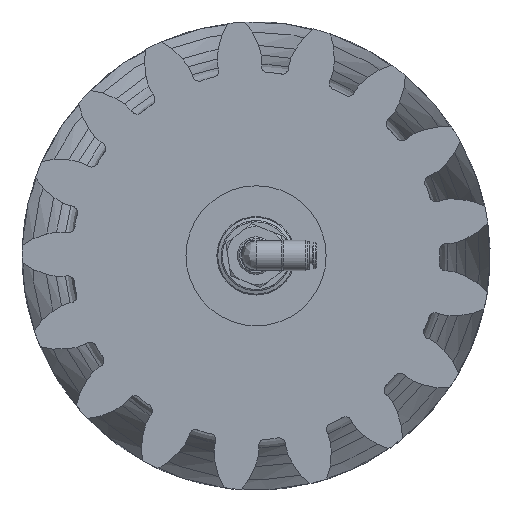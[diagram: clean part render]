
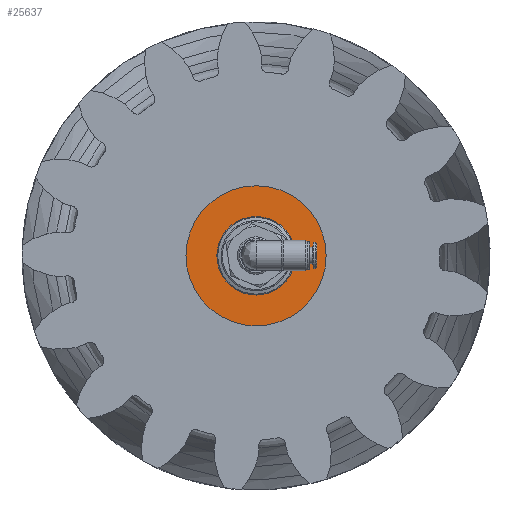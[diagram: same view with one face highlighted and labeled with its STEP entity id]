
A CAD part, top view. The second image highlights one B-rep face of the part: STEP entity #25637.
In plain terms, the highlighted planar face has unit normal (0, 0, 1) as drawn and (0, 1, 0) by its records, which use the part's own axes.
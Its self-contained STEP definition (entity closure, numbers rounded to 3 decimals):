
#2065 = PLANE ( 'NONE',  #62396 ) ;
#7946 = DIRECTION ( 'NONE',  ( 0., 0., -1. ) ) ;
#11791 = DIRECTION ( 'NONE',  ( 0., 0., 1. ) ) ;
#18558 = CIRCLE ( 'NONE', #39682, 30. ) ;
#25637 = ADVANCED_FACE ( 'NONE', ( #60508, #26971 ), #2065, .F. ) ;
#26971 = FACE_OUTER_BOUND ( 'NONE', #35381, .T. ) ;
#31407 = CARTESIAN_POINT ( 'NONE',  ( 0., 0.6, 0. ) ) ;
#31767 = DIRECTION ( 'NONE',  ( 0., 1., 0. ) ) ;
#34253 = CARTESIAN_POINT ( 'NONE',  ( 0., 0.6, 16.8 ) ) ;
#35381 = EDGE_LOOP ( 'NONE', ( #59889 ) ) ;
#36568 = DIRECTION ( 'NONE',  ( 0., 0., 1. ) ) ;
#39682 = AXIS2_PLACEMENT_3D ( 'NONE', #62978, #68892, #11791 ) ;
#43192 = DIRECTION ( 'NONE',  ( 0., -1., 0. ) ) ;
#46050 = VERTEX_POINT ( 'NONE', #51588 ) ;
#47003 = CARTESIAN_POINT ( 'NONE',  ( 30., 0.6, 0. ) ) ;
#50862 = VERTEX_POINT ( 'NONE', #34253 ) ;
#51588 = CARTESIAN_POINT ( 'NONE',  ( 0., 0.6, 30. ) ) ;
#53379 = EDGE_LOOP ( 'NONE', ( #53433 ) ) ;
#53433 = ORIENTED_EDGE ( 'NONE', *, *, #58372, .F. ) ;
#58372 = EDGE_CURVE ( 'NONE', #50862, #50862, #58566, .T. ) ;
#58566 = CIRCLE ( 'NONE', #60931, 16.8 ) ;
#59889 = ORIENTED_EDGE ( 'NONE', *, *, #71337, .T. ) ;
#60508 = FACE_BOUND ( 'NONE', #53379, .T. ) ;
#60931 = AXIS2_PLACEMENT_3D ( 'NONE', #31407, #31767, #36568 ) ;
#62396 = AXIS2_PLACEMENT_3D ( 'NONE', #47003, #43192, #7946 ) ;
#62978 = CARTESIAN_POINT ( 'NONE',  ( 0., 0.6, 0. ) ) ;
#68892 = DIRECTION ( 'NONE',  ( 0., 1., 0. ) ) ;
#71337 = EDGE_CURVE ( 'NONE', #46050, #46050, #18558, .T. ) ;
